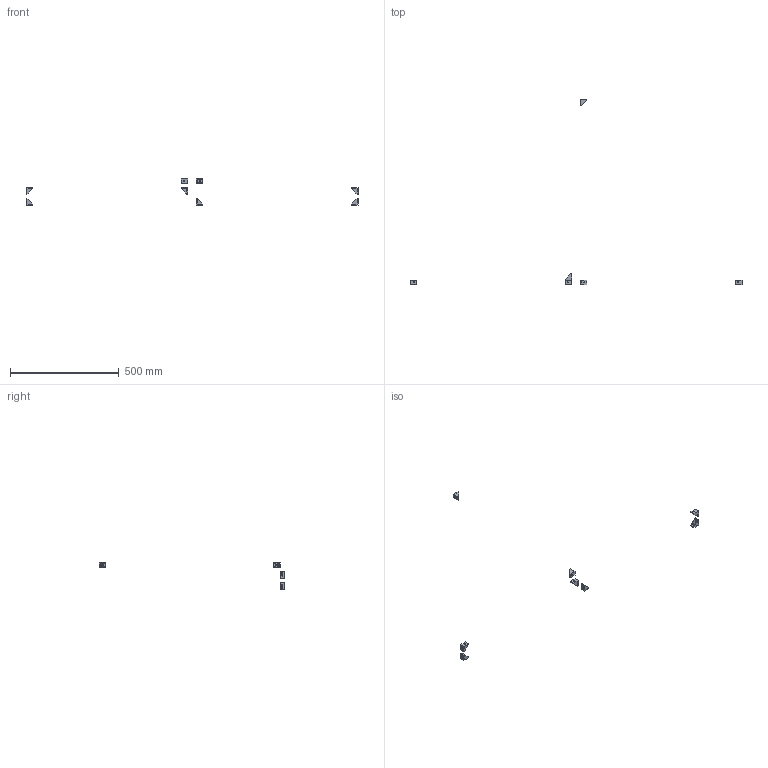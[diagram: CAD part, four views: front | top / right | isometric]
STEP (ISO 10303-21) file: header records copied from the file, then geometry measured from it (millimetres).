
FILE_DESCRIPTION(/* description */ (''),/* implementation_level */ '2;1');
FILE_NAME(/* name */ 'FRE690~1',/* time_stamp */ '2014-02-14T19:35:32+01:00',/* author */ (''),/* organization */ (''),/* preprocessor_version */ 'ST-DEVELOPER v14',/* originating_system */ '',/* authorisation */ '');
FILE_SCHEMA (('AUTOMOTIVE_DESIGN'));
Length unit declared in the file: millimetre
Products named in the file (2): Document; angle bracket, single
Assembly tree (6 placements, depth 2):
  Document
    angle bracket, single  x6
Bounding box: 1524 x 850 x 120 mm (x, y, z)
Volume: 50842.4 mm3; surface area: 33755 mm2
Topology: 8 solids, 8 shells, 144 faces, 352 edges, 224 vertices
Faces by surface type: plane 96, bspline 48
Entity records: 3872 total; most frequent: CARTESIAN_POINT 1974, B_SPLINE_CURVE_WITH_KNOTS 342, ORIENTED_EDGE 264, PCURVE 264, DEFINITIONAL_REPRESENTATION 264, SURFACE_CURVE 132, EDGE_CURVE 132, VERTEX_POINT 84
